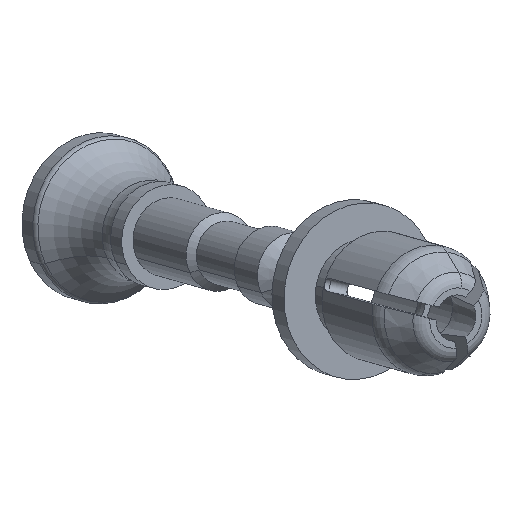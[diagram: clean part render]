
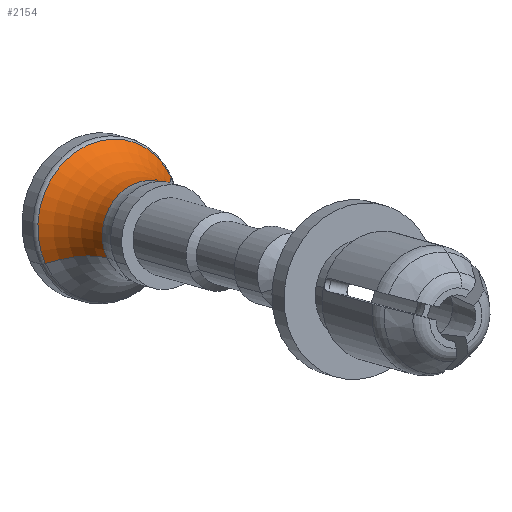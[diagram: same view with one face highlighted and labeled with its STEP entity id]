
A CAD part, front view. The second image highlights one B-rep face of the part: STEP entity #2154.
In plain terms, the highlighted toroidal (fillet/blend) face has major radius 7.198 mm and minor radius 4.75 mm.
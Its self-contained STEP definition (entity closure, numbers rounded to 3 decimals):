
#8 = CIRCLE ( 'NONE', #1602, 4.75 ) ;
#19 = CARTESIAN_POINT ( 'NONE',  ( 0., 0., 1.943 ) ) ;
#165 = CARTESIAN_POINT ( 'NONE',  ( -3.944, 0., 5.403 ) ) ;
#217 = ORIENTED_EDGE ( 'NONE', *, *, #2683, .F. ) ;
#255 = VERTEX_POINT ( 'NONE', #2126 ) ;
#306 = ORIENTED_EDGE ( 'NONE', *, *, #971, .T. ) ;
#390 = DIRECTION ( 'NONE',  ( 1., 0., 0. ) ) ;
#406 = FACE_OUTER_BOUND ( 'NONE', #2733, .T. ) ;
#444 = VERTEX_POINT ( 'NONE', #901 ) ;
#446 = CIRCLE ( 'NONE', #1146, 2.449 ) ;
#599 = AXIS2_PLACEMENT_3D ( 'NONE', #2477, #1181, #2688 ) ;
#698 = DIRECTION ( 'NONE',  ( 0., 1., 0. ) ) ;
#744 = DIRECTION ( 'NONE',  ( 0., -1., 0. ) ) ;
#770 = CARTESIAN_POINT ( 'NONE',  ( -7.198, 0., 1.943 ) ) ;
#901 = CARTESIAN_POINT ( 'NONE',  ( -2.449, 0., 1.943 ) ) ;
#971 = EDGE_CURVE ( 'NONE', #444, #255, #446, .T. ) ;
#1068 = DIRECTION ( 'NONE',  ( 0., 0., 1. ) ) ;
#1146 = AXIS2_PLACEMENT_3D ( 'NONE', #1659, #1867, #390 ) ;
#1163 = ORIENTED_EDGE ( 'NONE', *, *, #1187, .T. ) ;
#1181 = DIRECTION ( 'NONE',  ( 0., 0., -1. ) ) ;
#1187 = EDGE_CURVE ( 'NONE', #1281, #444, #1319, .T. ) ;
#1281 = VERTEX_POINT ( 'NONE', #165 ) ;
#1319 = CIRCLE ( 'NONE', #2455, 4.75 ) ;
#1333 = CARTESIAN_POINT ( 'NONE',  ( 3.944, 0., 5.403 ) ) ;
#1453 = DIRECTION ( 'NONE',  ( -1., 0., 0. ) ) ;
#1552 = AXIS2_PLACEMENT_3D ( 'NONE', #19, #1068, #1931 ) ;
#1602 = AXIS2_PLACEMENT_3D ( 'NONE', #2029, #744, #2261 ) ;
#1659 = CARTESIAN_POINT ( 'NONE',  ( 0., 0., 1.943 ) ) ;
#1867 = DIRECTION ( 'NONE',  ( 0., 0., 1. ) ) ;
#1931 = DIRECTION ( 'NONE',  ( 1., 0., 0. ) ) ;
#2026 = TOROIDAL_SURFACE ( 'NONE', #1552, 7.198, 4.75 ) ;
#2029 = CARTESIAN_POINT ( 'NONE',  ( 7.198, 0., 1.943 ) ) ;
#2072 = ORIENTED_EDGE ( 'NONE', *, *, #2423, .T. ) ;
#2126 = CARTESIAN_POINT ( 'NONE',  ( 2.449, 0., 1.943 ) ) ;
#2154 = ADVANCED_FACE ( 'NONE', ( #406 ), #2026, .F. ) ;
#2261 = DIRECTION ( 'NONE',  ( 0., 0., -1. ) ) ;
#2423 = EDGE_CURVE ( 'NONE', #2548, #1281, #2705, .T. ) ;
#2455 = AXIS2_PLACEMENT_3D ( 'NONE', #770, #698, #1453 ) ;
#2477 = CARTESIAN_POINT ( 'NONE',  ( 0., 0., 5.403 ) ) ;
#2548 = VERTEX_POINT ( 'NONE', #1333 ) ;
#2683 = EDGE_CURVE ( 'NONE', #2548, #255, #8, .T. ) ;
#2688 = DIRECTION ( 'NONE',  ( -1., 0., 0. ) ) ;
#2705 = CIRCLE ( 'NONE', #599, 3.944 ) ;
#2733 = EDGE_LOOP ( 'NONE', ( #1163, #306, #217, #2072 ) ) ;
